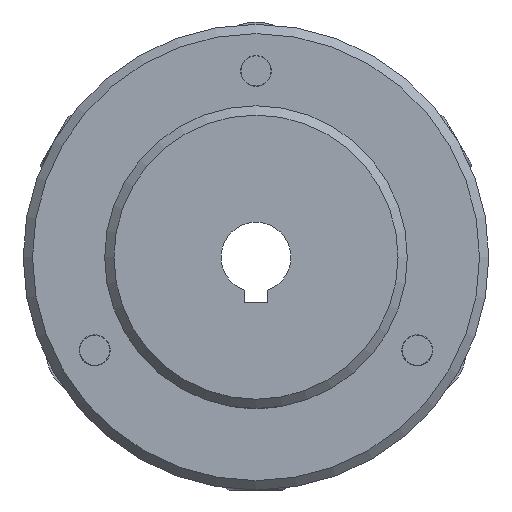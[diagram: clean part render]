
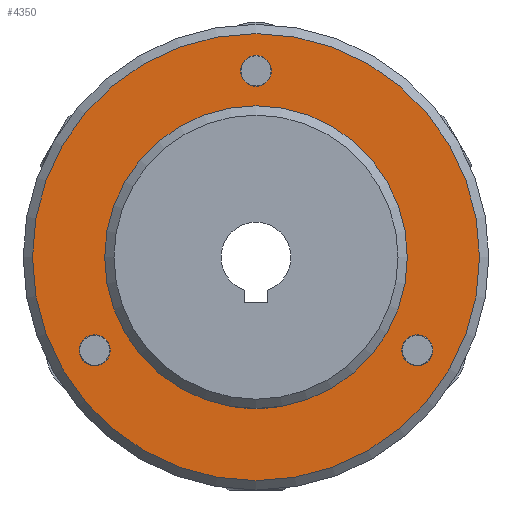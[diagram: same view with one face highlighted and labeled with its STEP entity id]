
A CAD part, left-side view. The second image highlights one B-rep face of the part: STEP entity #4350.
In plain terms, the highlighted planar face has unit normal (-1, 0, 0) as drawn and (0, 1, 0) by its records, which use the part's own axes.
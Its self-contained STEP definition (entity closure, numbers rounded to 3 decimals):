
#884=FACE_BOUND('',#1459,.T.);
#885=FACE_BOUND('',#1460,.T.);
#886=FACE_BOUND('',#1461,.T.);
#887=FACE_BOUND('',#1462,.T.);
#1149=FACE_OUTER_BOUND('',#1458,.T.);
#1458=EDGE_LOOP('',(#3976));
#1459=EDGE_LOOP('',(#3977));
#1460=EDGE_LOOP('',(#3978));
#1461=EDGE_LOOP('',(#3979));
#1462=EDGE_LOOP('',(#3980));
#1752=CIRCLE('',#5077,32.5);
#1753=CIRCLE('',#5080,48.);
#1756=CIRCLE('',#5085,3.324);
#1757=CIRCLE('',#5086,3.324);
#1758=CIRCLE('',#5087,3.324);
#2133=VERTEX_POINT('',#9287);
#2137=VERTEX_POINT('',#9334);
#2140=VERTEX_POINT('',#9344);
#2141=VERTEX_POINT('',#9346);
#2142=VERTEX_POINT('',#9348);
#2750=EDGE_CURVE('',#2133,#2133,#1752,.T.);
#2754=EDGE_CURVE('',#2137,#2137,#1753,.T.);
#2759=EDGE_CURVE('',#2140,#2140,#1756,.T.);
#2760=EDGE_CURVE('',#2141,#2141,#1757,.T.);
#2761=EDGE_CURVE('',#2142,#2142,#1758,.T.);
#3976=ORIENTED_EDGE('',*,*,#2754,.F.);
#3977=ORIENTED_EDGE('',*,*,#2750,.F.);
#3978=ORIENTED_EDGE('',*,*,#2759,.T.);
#3979=ORIENTED_EDGE('',*,*,#2760,.T.);
#3980=ORIENTED_EDGE('',*,*,#2761,.T.);
#4091=PLANE('',#5084);
#4350=ADVANCED_FACE('',(#1149,#884,#885,#886,#887),#4091,.T.);
#5077=AXIS2_PLACEMENT_3D('',#9289,#6370,#6371);
#5080=AXIS2_PLACEMENT_3D('',#9335,#6376,#6377);
#5084=AXIS2_PLACEMENT_3D('',#9343,#6386,#6387);
#5085=AXIS2_PLACEMENT_3D('',#9345,#6388,#6389);
#5086=AXIS2_PLACEMENT_3D('',#9347,#6390,#6391);
#5087=AXIS2_PLACEMENT_3D('',#9349,#6392,#6393);
#6370=DIRECTION('center_axis',(0.,1.,0.));
#6371=DIRECTION('ref_axis',(-1.,0.,0.));
#6376=DIRECTION('center_axis',(0.,-1.,0.));
#6377=DIRECTION('ref_axis',(1.,0.,0.));
#6386=DIRECTION('center_axis',(0.,1.,0.));
#6387=DIRECTION('ref_axis',(0.,0.,1.));
#6388=DIRECTION('center_axis',(0.,-1.,0.));
#6389=DIRECTION('ref_axis',(1.,0.,0.));
#6390=DIRECTION('center_axis',(0.,-1.,0.));
#6391=DIRECTION('ref_axis',(1.,0.,0.));
#6392=DIRECTION('center_axis',(0.,-1.,0.));
#6393=DIRECTION('ref_axis',(1.,0.,0.));
#9287=CARTESIAN_POINT('',(32.5,8.,0.));
#9289=CARTESIAN_POINT('Origin',(0.,8.,0.));
#9334=CARTESIAN_POINT('',(-48.,8.,0.));
#9335=CARTESIAN_POINT('Origin',(0.,8.,0.));
#9343=CARTESIAN_POINT('Origin',(-41.25,8.,0.));
#9344=CARTESIAN_POINT('',(-37.965,8.,-20.));
#9345=CARTESIAN_POINT('Origin',(-34.641,8.,-20.));
#9346=CARTESIAN_POINT('',(-3.324,8.,40.));
#9347=CARTESIAN_POINT('Origin',(0.,8.,40.));
#9348=CARTESIAN_POINT('',(31.318,8.,-20.));
#9349=CARTESIAN_POINT('Origin',(34.641,8.,-20.));
